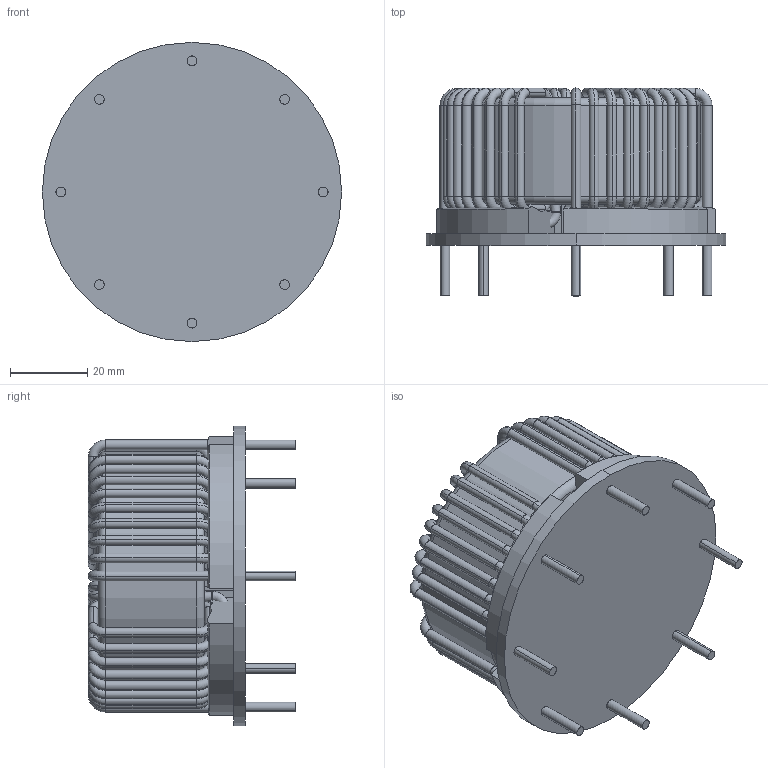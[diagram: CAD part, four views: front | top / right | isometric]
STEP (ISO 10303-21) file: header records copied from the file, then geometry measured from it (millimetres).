
FILE_DESCRIPTION (( 'STEP AP203' ), '1' );
FILE_NAME ('FPB-622U-B50A.STEP', '2020-07-21T13:26:44', ( 'Windows User' ), ( '' ), 'SwSTEP 2.0', 'SolidWorks 2015', '' );
FILE_SCHEMA (( 'CONFIG_CONTROL_DESIGN' ));
Length unit declared in the file: inch
Products named in the file (6): FPB-622U-B50A - EPOXY; FPB-622U-B50A - SPACER; FPB-622U-B50A - FRAME; FPB-622U-B50A - CORE; FPB-622U-B50A; FPB-622U-B50A - COIL
Assembly tree (5 placements, depth 2):
  FPB-622U-B50A
    FPB-622U-B50A - CORE
    FPB-622U-B50A - COIL
    FPB-622U-B50A - FRAME
    FPB-622U-B50A - SPACER
    FPB-622U-B50A - EPOXY
Bounding box: 77.6 x 53.82 x 77.6 mm (x, y, z)
Volume: 110948.7 mm3; surface area: 61775.9 mm2
Topology: 23 solids, 23 shells, 776 faces, 2214 edges, 1404 vertices
Faces by surface type: cylinder 370, torus 304, plane 58, bspline 44
Entity records: 32858 total; most frequent: CARTESIAN_POINT 11534, DIRECTION 4798, ORIENTED_EDGE 4396, AXIS2_PLACEMENT_3D 2220, EDGE_CURVE 2198, CIRCLE 1480, VERTEX_POINT 1404, EDGE_LOOP 794
